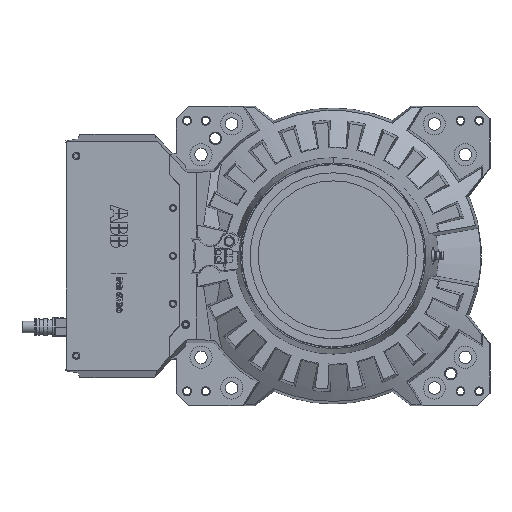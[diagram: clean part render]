
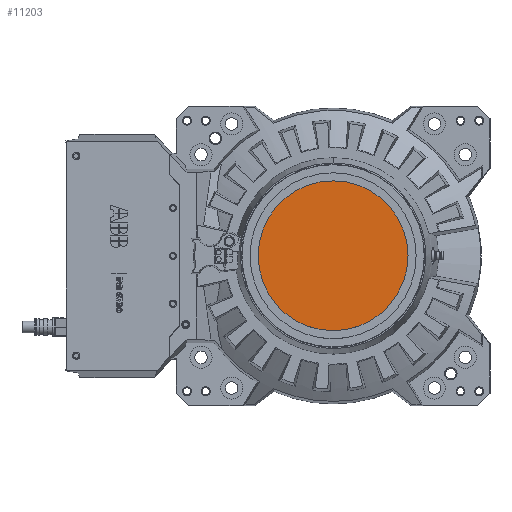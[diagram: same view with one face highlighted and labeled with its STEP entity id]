
A CAD part, top view. The second image highlights one B-rep face of the part: STEP entity #11203.
In plain terms, the highlighted planar face has unit normal (0, 0, 1).
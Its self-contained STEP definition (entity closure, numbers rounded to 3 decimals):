
#686 = DIRECTION ( 'NONE',  ( -1., 0., 0. ) ) ;
#3405 = EDGE_CURVE ( 'NONE', #37624, #50903, #16201, .T. ) ;
#4352 = CARTESIAN_POINT ( 'NONE',  ( 0., 0., 374. ) ) ;
#4622 = ORIENTED_EDGE ( 'NONE', *, *, #25539, .F. ) ;
#5566 = AXIS2_PLACEMENT_3D ( 'NONE', #35103, #38774, #686 ) ;
#11203 = ADVANCED_FACE ( 'NONE', ( #31785 ), #14338, .T. ) ;
#13215 = DIRECTION ( 'NONE',  ( 0., 0., -1. ) ) ;
#14338 = PLANE ( 'NONE',  #41108 ) ;
#15726 = CARTESIAN_POINT ( 'NONE',  ( -180., 0., 374. ) ) ;
#16201 = CIRCLE ( 'NONE', #5566, 180. ) ;
#25539 = EDGE_CURVE ( 'NONE', #50903, #37624, #40090, .T. ) ;
#26897 = ORIENTED_EDGE ( 'NONE', *, *, #3405, .F. ) ;
#31785 = FACE_OUTER_BOUND ( 'NONE', #42691, .T. ) ;
#32311 = CARTESIAN_POINT ( 'NONE',  ( -180., 0., 374. ) ) ;
#35103 = CARTESIAN_POINT ( 'NONE',  ( 0., 0., 374. ) ) ;
#37624 = VERTEX_POINT ( 'NONE', #32311 ) ;
#38774 = DIRECTION ( 'NONE',  ( 0., 0., -1. ) ) ;
#40090 = CIRCLE ( 'NONE', #44533, 180. ) ;
#41108 = AXIS2_PLACEMENT_3D ( 'NONE', #15726, #54068, #50440 ) ;
#42691 = EDGE_LOOP ( 'NONE', ( #26897, #4622 ) ) ;
#44533 = AXIS2_PLACEMENT_3D ( 'NONE', #4352, #13215, #46293 ) ;
#46293 = DIRECTION ( 'NONE',  ( -1., 0., 0. ) ) ;
#47613 = CARTESIAN_POINT ( 'NONE',  ( 180., 0., 374. ) ) ;
#50440 = DIRECTION ( 'NONE',  ( 1., 0., 0. ) ) ;
#50903 = VERTEX_POINT ( 'NONE', #47613 ) ;
#54068 = DIRECTION ( 'NONE',  ( 0., 0., 1. ) ) ;
